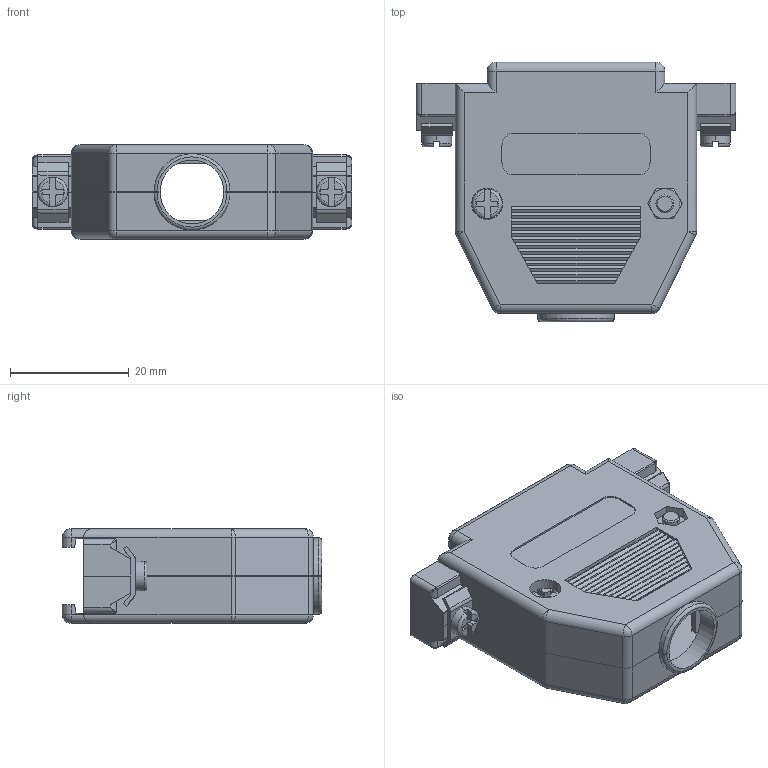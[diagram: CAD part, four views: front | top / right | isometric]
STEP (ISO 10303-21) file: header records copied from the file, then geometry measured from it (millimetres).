
FILE_DESCRIPTION(/* description */ (''),/* implementation_level */ '2;1');
FILE_NAME(/* name */ 'DHP-25P-BK.stp',/* time_stamp */ '2026-07-02T15:44:53+08:00',/* author */ (''),/* organization */ (''),/* preprocessor_version */ 'ST-DEVELOPER v16',/* originating_system */ 'SIEMENS PLM Software NX 10.0',/* authorisation */ '');
FILE_SCHEMA (('AUTOMOTIVE_DESIGN { 1 0 10303 214 3 1 1 1 }'));
Length unit declared in the file: millimetre
Products named in the file (1): DELL7790599Fjahb
Bounding box: 54 x 43.8 x 16 mm (x, y, z)
Volume: 8970.9 mm3; surface area: 13401.4 mm2
Topology: 10 solids, 12 shells, 564 faces, 1528 edges, 1000 vertices
Faces by surface type: plane 342, cylinder 148, cone 36, torus 22, sphere 12, bspline 4
Entity records: 18212 total; most frequent: CARTESIAN_POINT 3677, ORIENTED_EDGE 3032, DIRECTION 2988, EDGE_CURVE 1520, LINE 1022, VECTOR 1022, VERTEX_POINT 1000, AXIS2_PLACEMENT_3D 983
